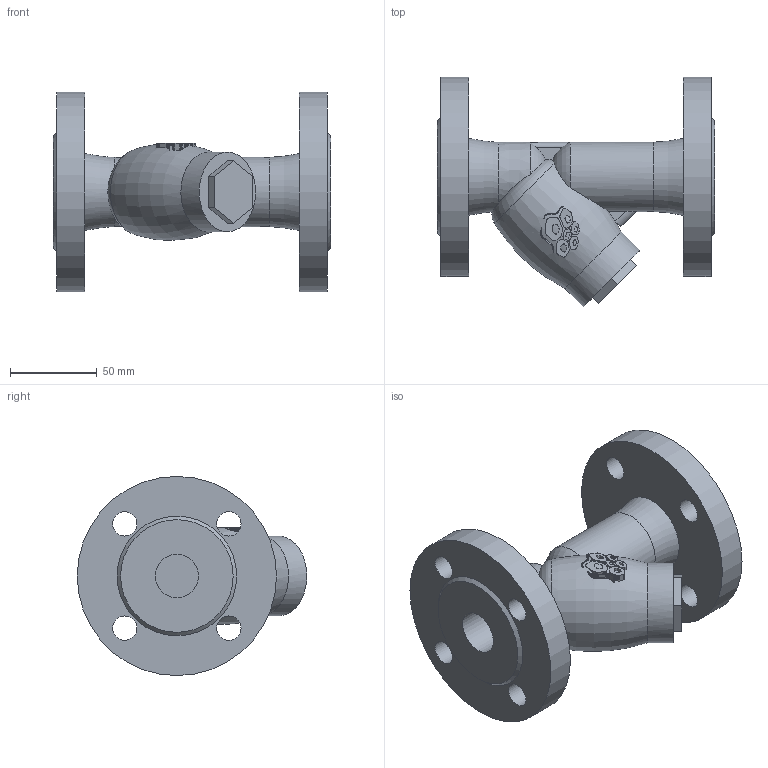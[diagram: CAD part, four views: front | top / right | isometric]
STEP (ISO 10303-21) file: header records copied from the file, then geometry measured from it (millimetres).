
FILE_DESCRIPTION(('STEP AP203'), '1');
FILE_NAME('3D_600_601-025-16_1_1', '', ('UNSPECIFIED'), ('UNSPECIFIED'), 'C3D Converter', 'C3D Toolkit', '');
FILE_SCHEMA(('CONFIG_CONTROL_DESIGN'));
Length unit declared in the file: millimetre
Bounding box: 160 x 132.46 x 115 mm (x, y, z)
Volume: 596152.9 mm3; surface area: 82733.3 mm2
Topology: 1 solids, 1 shells, 874 faces, 2570 edges, 1719 vertices
Faces by surface type: plane 842, cylinder 17, torus 12, cone 3
Full cylindrical faces by diameter (mm): 14 x8, 25 x2, 40 x1, 46 x1, 115 x2
Entity records: 38837 total; most frequent: CARTESIAN_POINT 10173, ORIENTED_EDGE 5102, DIRECTION 3519, EDGE_CURVE 2551, VERTEX_POINT 1719, LINE 1651, VECTOR 1651, AXIS2_PLACEMENT_3D 934
